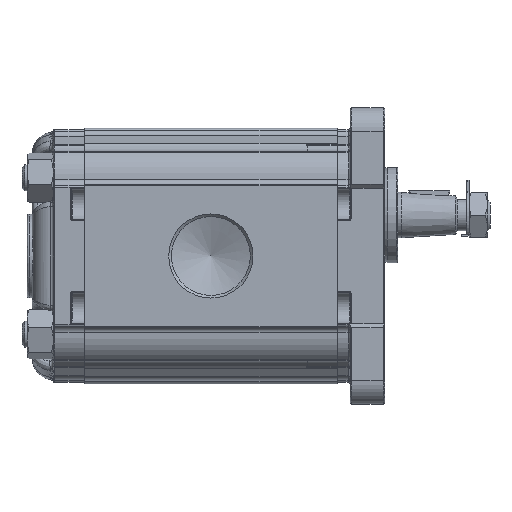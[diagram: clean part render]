
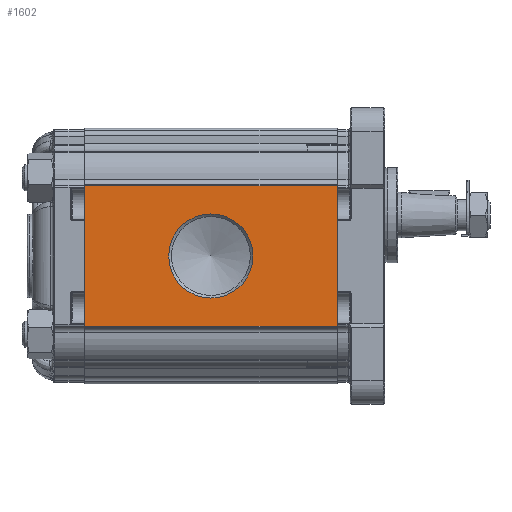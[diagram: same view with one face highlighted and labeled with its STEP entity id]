
A CAD part, left-side view. The second image highlights one B-rep face of the part: STEP entity #1602.
In plain terms, the highlighted planar face has unit normal (-1, 0, 0).
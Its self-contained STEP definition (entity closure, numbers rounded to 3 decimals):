
#1602 = ADVANCED_FACE( '', ( #4474, #4475 ), #4476, .T. );
#4474 = FACE_BOUND( '', #8938, .T. );
#4475 = FACE_OUTER_BOUND( '', #8939, .T. );
#4476 = PLANE( '', #8940 );
#8938 = EDGE_LOOP( '', ( #16348 ) );
#8939 = EDGE_LOOP( '', ( #16349, #16350, #16351, #16352 ) );
#8940 = AXIS2_PLACEMENT_3D( '', #16353, #16354, #16355 );
#16348 = ORIENTED_EDGE( '', *, *, #28416, .T. );
#16349 = ORIENTED_EDGE( '', *, *, #28417, .F. );
#16350 = ORIENTED_EDGE( '', *, *, #28418, .F. );
#16351 = ORIENTED_EDGE( '', *, *, #28419, .T. );
#16352 = ORIENTED_EDGE( '', *, *, #28420, .T. );
#16353 = CARTESIAN_POINT( '', ( -43., 97., 27.048 ) );
#16354 = DIRECTION( '', ( -1., 0., 0. ) );
#16355 = DIRECTION( '', ( 0., 0., 1. ) );
#28416 = EDGE_CURVE( '', #33573, #33573, #33574, .F. );
#28417 = EDGE_CURVE( '', #33575, #33576, #33577, .T. );
#28418 = EDGE_CURVE( '', #33578, #33575, #33579, .T. );
#28419 = EDGE_CURVE( '', #33578, #33580, #33581, .T. );
#28420 = EDGE_CURVE( '', #33580, #33576, #33582, .T. );
#33573 = VERTEX_POINT( '', #41358 );
#33574 = CIRCLE( '', #41359, 16.146 );
#33575 = VERTEX_POINT( '', #41360 );
#33576 = VERTEX_POINT( '', #41361 );
#33577 = LINE( '', #41362, #41363 );
#33578 = VERTEX_POINT( '', #41364 );
#33579 = LINE( '', #41365, #41366 );
#33580 = VERTEX_POINT( '', #41367 );
#33581 = LINE( '', #41368, #41369 );
#33582 = LINE( '', #41370, #41371 );
#41358 = CARTESIAN_POINT( '', ( -43., 48.5, 16.146 ) );
#41359 = AXIS2_PLACEMENT_3D( '', #54885, #54886, #54887 );
#41360 = CARTESIAN_POINT( '', ( -43., 0., 27.048 ) );
#41361 = CARTESIAN_POINT( '', ( -43., 0., -27.048 ) );
#41362 = CARTESIAN_POINT( '', ( -43., 0., 27.048 ) );
#41363 = VECTOR( '', #54888, 1000. );
#41364 = CARTESIAN_POINT( '', ( -43., 97., 27.048 ) );
#41365 = CARTESIAN_POINT( '', ( -43., 97., 27.048 ) );
#41366 = VECTOR( '', #54889, 1000. );
#41367 = CARTESIAN_POINT( '', ( -43., 97., -27.048 ) );
#41368 = CARTESIAN_POINT( '', ( -43., 97., 27.048 ) );
#41369 = VECTOR( '', #54890, 1000. );
#41370 = CARTESIAN_POINT( '', ( -43., 97., -27.048 ) );
#41371 = VECTOR( '', #54891, 1000. );
#54885 = CARTESIAN_POINT( '', ( -43., 48.5, 0. ) );
#54886 = DIRECTION( '', ( -1., 0., 0. ) );
#54887 = DIRECTION( '', ( 0., 0., 1. ) );
#54888 = DIRECTION( '', ( 0., 0., -1. ) );
#54889 = DIRECTION( '', ( 0., -1., 0. ) );
#54890 = DIRECTION( '', ( 0., 0., -1. ) );
#54891 = DIRECTION( '', ( 0., -1., 0. ) );
